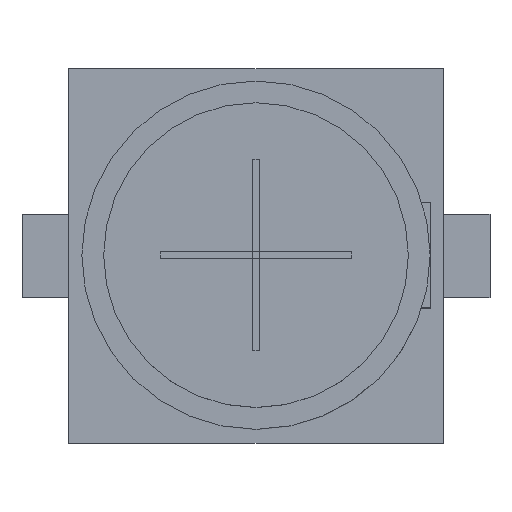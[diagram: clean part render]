
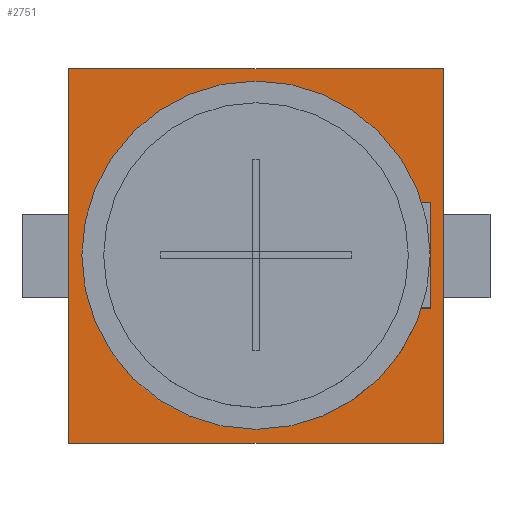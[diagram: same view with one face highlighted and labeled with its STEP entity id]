
A CAD part, top view. The second image highlights one B-rep face of the part: STEP entity #2751.
In plain terms, the highlighted planar face has unit normal (0, 0, 1).
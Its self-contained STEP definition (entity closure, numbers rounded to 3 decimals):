
#2622 = VERTEX_POINT('',#2623);
#2623 = CARTESIAN_POINT('',(-2.15,-2.15,0.65));
#2629 = EDGE_CURVE('',#2622,#2630,#2632,.T.);
#2630 = VERTEX_POINT('',#2631);
#2631 = CARTESIAN_POINT('',(2.15,-2.15,0.65));
#2632 = LINE('',#2633,#2634);
#2633 = CARTESIAN_POINT('',(-2.15,-2.15,0.65));
#2634 = VECTOR('',#2635,1.);
#2635 = DIRECTION('',(1.,0.,0.));
#2660 = EDGE_CURVE('',#2630,#2661,#2663,.T.);
#2661 = VERTEX_POINT('',#2662);
#2662 = CARTESIAN_POINT('',(2.15,2.15,0.65));
#2663 = LINE('',#2664,#2665);
#2664 = CARTESIAN_POINT('',(2.15,-2.15,0.65));
#2665 = VECTOR('',#2666,1.);
#2666 = DIRECTION('',(0.,1.,0.));
#2691 = EDGE_CURVE('',#2661,#2692,#2694,.T.);
#2692 = VERTEX_POINT('',#2693);
#2693 = CARTESIAN_POINT('',(-2.15,2.15,0.65));
#2694 = LINE('',#2695,#2696);
#2695 = CARTESIAN_POINT('',(2.15,2.15,0.65));
#2696 = VECTOR('',#2697,1.);
#2697 = DIRECTION('',(-1.,0.,0.));
#2722 = EDGE_CURVE('',#2692,#2622,#2723,.T.);
#2723 = LINE('',#2724,#2725);
#2724 = CARTESIAN_POINT('',(-2.15,2.15,0.65));
#2725 = VECTOR('',#2726,1.);
#2726 = DIRECTION('',(0.,-1.,0.));
#2751 = ADVANCED_FACE('',(#2752),#2758,.T.);
#2752 = FACE_BOUND('',#2753,.T.);
#2753 = EDGE_LOOP('',(#2754,#2755,#2756,#2757));
#2754 = ORIENTED_EDGE('',*,*,#2629,.T.);
#2755 = ORIENTED_EDGE('',*,*,#2660,.T.);
#2756 = ORIENTED_EDGE('',*,*,#2691,.T.);
#2757 = ORIENTED_EDGE('',*,*,#2722,.T.);
#2758 = PLANE('',#2759);
#2759 = AXIS2_PLACEMENT_3D('',#2760,#2761,#2762);
#2760 = CARTESIAN_POINT('',(0.,0.,0.65)
  );
#2761 = DIRECTION('',(0.,0.,1.));
#2762 = DIRECTION('',(1.,0.,-0.));
